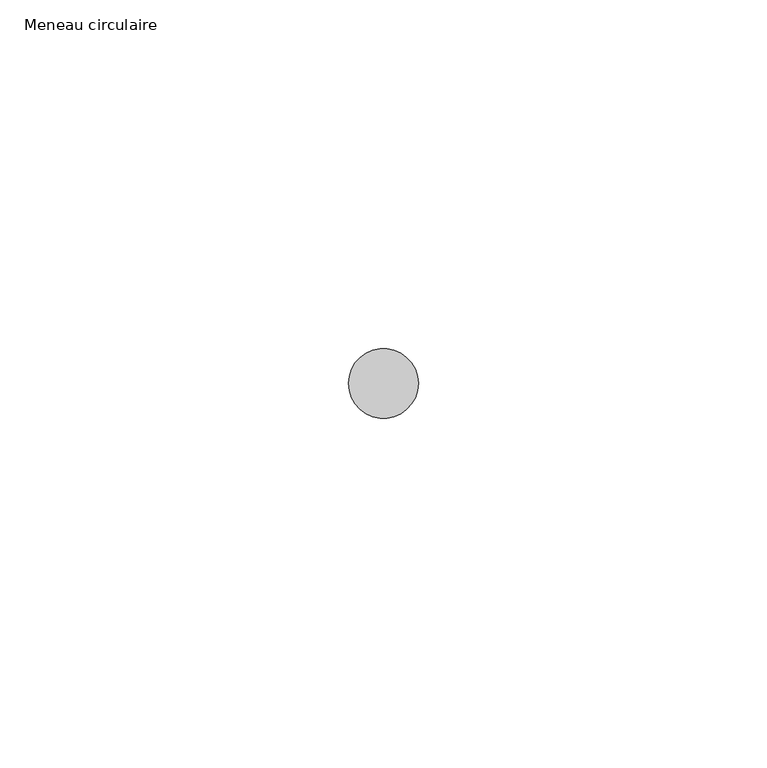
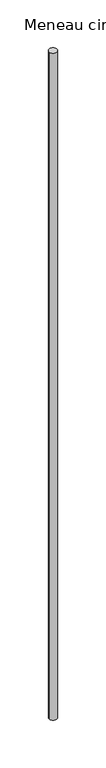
"""IFC4 building model written with IfcOpenShell, lengths in millimetres: member geometry, Meneau circulaire : Diamètre 1cm."""

import ifcopenshell
import ifcopenshell.guid

model = None  # the IFC model being written
_history = None  # IfcOwnerHistory: only IFC2X3 demands one
_inside = {}  # id of a spatial element -> (the spatial element, [elements in it])
_under = {}  # id of a project, library or spatial element -> (it, [spatial elements below it])
_declared = {}  # id of a project -> (the project, [libraries it declares])
_typed = {}  # id of a type object -> (the type object, [elements of that type])
_made_of = {}  # id of a material, layer set ... -> (it, [elements and type objects made of it])


def new_model(schema):
    """Start an empty IFC model of exactly this schema.

    Asked for "IFC4X3", IfcOpenShell would pick the latest addendum, in which some entities
    have other attributes; the version numbers below select the first issue.
    IFC2X3 requires an IfcOwnerHistory on every rooted entity: one is made here for all.
    """
    global model, _history
    if schema == "IFC4X3":
        model = ifcopenshell.file(schema_version=(4, 3, 0, 0))
    else:
        model = ifcopenshell.file(schema=schema)
    _inside.clear()
    _under.clear()
    _declared.clear()
    _typed.clear()
    _made_of.clear()
    _history = None
    if model.schema == "IFC2X3":
        org = make("IfcOrganization", Name="unknown")
        user = make(
            "IfcPersonAndOrganization",
            ThePerson=make("IfcPerson", FamilyName="unknown"),
            TheOrganization=org,
        )
        app = make(
            "IfcApplication",
            ApplicationDeveloper=org,
            Version="unknown",
            ApplicationFullName="unknown",
            ApplicationIdentifier="unknown",
        )
        _history = make(
            "IfcOwnerHistory",
            OwningUser=user,
            OwningApplication=app,
            ChangeAction="ADDED",
            CreationDate=0,
        )
    return model


def make(cls, **values):
    """One entity of the class cls with the attributes given. An attribute that is None is left unset."""
    return model.create_entity(
        cls, **{name: value for name, value in values.items() if value is not None}
    )


def rooted(cls, **values):
    """An entity with a GlobalId (a new one), such as an element, a storey or a relation."""
    return make(cls, GlobalId=ifcopenshell.guid.new(), OwnerHistory=_history, **values)


def si_unit(unit_type, name, prefix=None):
    """IfcSIUnit, for example si_unit("LENGTHUNIT", "METRE", prefix="MILLI")."""
    return make("IfcSIUnit", UnitType=unit_type, Prefix=prefix, Name=name)


def assignment(units):
    """IfcUnitAssignment: the units of a project."""
    return None if units is None else make("IfcUnitAssignment", Units=units)


def point(xyz):
    """IfcCartesianPoint."""
    return None if xyz is None else make("IfcCartesianPoint", Coordinates=xyz)


def direction(xyz):
    """IfcDirection."""
    return None if xyz is None else make("IfcDirection", DirectionRatios=xyz)


def frame(location, z_axis=None, x_axis=None):
    """IfcAxis2Placement3D, a coordinate frame: its origin and axes. An axis left out is left unset."""
    return make(
        "IfcAxis2Placement3D",
        Location=point(location),
        Axis=direction(z_axis),
        RefDirection=direction(x_axis),
    )


def frame_2d(location, x_axis=None):
    """IfcAxis2Placement2D, a coordinate frame in the plane: its origin and x axis."""
    return make(
        "IfcAxis2Placement2D", Location=point(location), RefDirection=direction(x_axis)
    )


def origin():
    """The frame at (0, 0, 0) with its axes left unset."""
    return frame((0.0, 0.0, 0.0))


def place(relative_to, where):
    """IfcLocalPlacement: puts the frame where relative to a parent placement (None: the world)."""
    return make(
        "IfcLocalPlacement", PlacementRelTo=relative_to, RelativePlacement=where
    )


def context(
    kind, dimensions, precision=None, world=None, true_north=None, identifier=None
):
    """IfcGeometricRepresentationContext, for example the 3D "Model" context."""
    return make(
        "IfcGeometricRepresentationContext",
        ContextIdentifier=identifier,
        ContextType=kind,
        CoordinateSpaceDimension=dimensions,
        Precision=precision,
        WorldCoordinateSystem=world,
        TrueNorth=true_north,
    )


def project(units=None, contexts=None):
    """IfcProject with its units and contexts."""
    return rooted(
        "IfcProject",
        Name="project",
        RepresentationContexts=contexts,
        UnitsInContext=assignment(units),
    )


def spatial(cls, under=None, at=None, **own):
    """A site, building, storey or space (cls), placed at a placement, below another one or the project."""
    s = rooted(cls, ObjectPlacement=at, **own)
    if under is not None:
        _under.setdefault(under.id(), (under, []))[1].append(s)
    return s


def circle_curve(where, radius):
    """IfcCircle in the frame where."""
    return make("IfcCircle", Position=where, Radius=radius)


def trimmed(basis, trim1, trim2, sense, master):
    """IfcTrimmedCurve: the piece of a basis curve between two trims."""
    return make(
        "IfcTrimmedCurve",
        BasisCurve=basis,
        Trim1=trim1,
        Trim2=trim2,
        SenseAgreement=sense,
        MasterRepresentation=master,
    )


def segment(curve, same_sense, transition):
    """IfcCompositeCurveSegment."""
    return make(
        "IfcCompositeCurveSegment",
        Transition=transition,
        SameSense=same_sense,
        ParentCurve=curve,
    )


def composite_curve(segments, self_intersect=None):
    """IfcCompositeCurve: segments joined end to end."""
    return make("IfcCompositeCurve", Segments=segments, SelfIntersect=self_intersect)


def outline(outer, holes=None, kind="AREA"):
    """IfcArbitraryClosedProfileDef: a profile drawn as a closed curve; with holes, ...WithVoids."""
    if holes is None:
        return make("IfcArbitraryClosedProfileDef", ProfileType=kind, OuterCurve=outer)
    return make(
        "IfcArbitraryProfileDefWithVoids",
        ProfileType=kind,
        OuterCurve=outer,
        InnerCurves=holes,
    )


def extrude(swept, where, along, depth):
    """IfcExtrudedAreaSolid: the profile swept, set in the frame where, extruded along a direction by depth."""
    return make(
        "IfcExtrudedAreaSolid",
        SweptArea=swept,
        Position=where,
        ExtrudedDirection=direction(along),
        Depth=depth,
    )


def shape(context_of_items, identifier, shape_type, items):
    """IfcShapeRepresentation: the items that make up one representation, for example the "Body"."""
    return make(
        "IfcShapeRepresentation",
        ContextOfItems=context_of_items,
        RepresentationIdentifier=identifier,
        RepresentationType=shape_type,
        Items=items,
    )


def source(mapping_origin, context_of_items, identifier, shape_type, items):
    """IfcRepresentationMap: a shape defined once, which mapped items show again and again."""
    return make(
        "IfcRepresentationMap",
        MappingOrigin=mapping_origin,
        MappedRepresentation=shape(context_of_items, identifier, shape_type, items),
    )


def transform(
    local_origin,
    x_axis=None,
    y_axis=None,
    z_axis=None,
    scale=None,
    scale2=None,
    scale3=None,
    uniform=True,
):
    """IfcCartesianTransformationOperator3D, or its non-uniform kind. x_axis, y_axis, z_axis: its Axis1, 2, 3."""
    if uniform:
        return make(
            "IfcCartesianTransformationOperator3D",
            Axis1=direction(x_axis),
            Axis2=direction(y_axis),
            LocalOrigin=point(local_origin),
            Scale=scale,
            Axis3=direction(z_axis),
        )
    return make(
        "IfcCartesianTransformationOperator3DnonUniform",
        Axis1=direction(x_axis),
        Axis2=direction(y_axis),
        LocalOrigin=point(local_origin),
        Scale=scale,
        Axis3=direction(z_axis),
        Scale2=scale2,
        Scale3=scale3,
    )


def mapped(mapping_source, mapping_target):
    """IfcMappedItem: shows the shape of a source again, moved by a transform."""
    return make(
        "IfcMappedItem", MappingSource=mapping_source, MappingTarget=mapping_target
    )


def made_of(thing, what):
    """Note that an element or type object is made of a material, layer set ...; save() writes the relation."""
    if what is not None:
        _made_of.setdefault(what.id(), (what, []))[1].append(thing)
    return thing


def element(
    cls,
    number,
    at=None,
    inside=None,
    cuts=None,
    type_object=None,
    material=None,
    context=None,
    identifier="Body",
    shape_type=None,
    held_by="IfcProductDefinitionShape",
    body=None,
    shapes=None,
    **own,
):
    """One element of the class cls, such as IfcWall. Its Tag is "e" and its number.

    at: its placement. inside: the storey or other place that contains it. cuts: it is an
    opening in that element (IfcRelVoidsElement). A single representation is given by context,
    identifier, shape_type and body (its items); several are given by shapes. held_by: the class
    of the entity that holds the representations. save() writes the other relations.
    """
    e = rooted(cls, Tag="e%d" % number, ObjectPlacement=at, **own)
    if body is not None:
        shapes = [shape(context, identifier, shape_type, body)]
    if shapes is not None:
        e.Representation = make(held_by, Representations=shapes)
    if inside is not None:
        _inside.setdefault(inside.id(), (inside, []))[1].append(e)
    if cuts is not None:
        rooted(
            "IfcRelVoidsElement", RelatingBuildingElement=cuts, RelatedOpeningElement=e
        )
    if type_object is not None:
        _typed.setdefault(type_object.id(), (type_object, []))[1].append(e)
    return made_of(e, material)


def aggregate(whole, parts):
    """IfcRelAggregates: a whole, such as a stair, and the parts it consists of."""
    return rooted("IfcRelAggregates", RelatingObject=whole, RelatedObjects=parts)


def save(model, path):
    """Write the relations noted so far, then the file.

    IfcRelAggregates (storeys below a building ...), IfcRelContainedInSpatialStructure (elements
    in a storey), IfcRelDefinesByType, IfcRelAssociatesMaterial and IfcRelDeclares: one each for
    every whole, place, type object, material and project.
    """
    for whole, parts in _under.values():
        aggregate(whole, parts)
    for where, things in _inside.values():
        rooted(
            "IfcRelContainedInSpatialStructure",
            RelatedElements=things,
            RelatingStructure=where,
        )
    for kind, things in _typed.values():
        rooted("IfcRelDefinesByType", RelatedObjects=things, RelatingType=kind)
    for what, things in _made_of.values():
        rooted("IfcRelAssociatesMaterial", RelatedObjects=things, RelatingMaterial=what)
    for by, libraries in _declared.values():
        rooted("IfcRelDeclares", RelatingContext=by, RelatedDefinitions=libraries)
    model.write(path)


def meneau_circulaire_d28f1fed(model_context):
    return source(origin(), model_context, "Body", "SweptSolid", [
        extrude(outline(composite_curve([segment(trimmed(circle_curve(frame_2d((-5.0, 0.0)), 5.0), [point((0.0, 0.0))], [point((-10.0, 0.0))], False, "CARTESIAN"), True, "CONTINUOUS"), segment(trimmed(circle_curve(frame_2d((-5.0, 0.0)), 5.0), [point((-10.0, 0.0))], [point((0.0, 0.0))], False, "CARTESIAN"), True, "CONTINUOUS")], self_intersect=False)), frame((0.0, 0.0, -870.0), z_axis=(0.0, 0.0, 1.0), x_axis=(1.0, 0.0, 0.0)), (0.0, 0.0, 1.0), 870.0),
    ])


if __name__ == "__main__":
    model = new_model("IFC4")
    model_context = context("Model", 3, world=origin())
    ifc_project = project(units=[si_unit("LENGTHUNIT", "METRE", prefix="MILLI")], contexts=[model_context])
    site = spatial("IfcSite", under=ifc_project)
    building = spatial("IfcBuilding", under=site)
    placement = place(None, origin())
    meneau_circulaire_shape = meneau_circulaire_d28f1fed(model_context)
    element("IfcMember", 1, ObjectType="Meneau circulaire : Diamètre 1cm", at=placement, inside=building, context=model_context, shape_type="MappedRepresentation", body=[
        mapped(meneau_circulaire_shape, transform((0.0, 0.0, 0.0), x_axis=(1.0, 0.0, 0.0), y_axis=(0.0, 1.0, 0.0), z_axis=(0.0, 0.0, 1.0))),
    ])
    save(model, "model.ifc")
